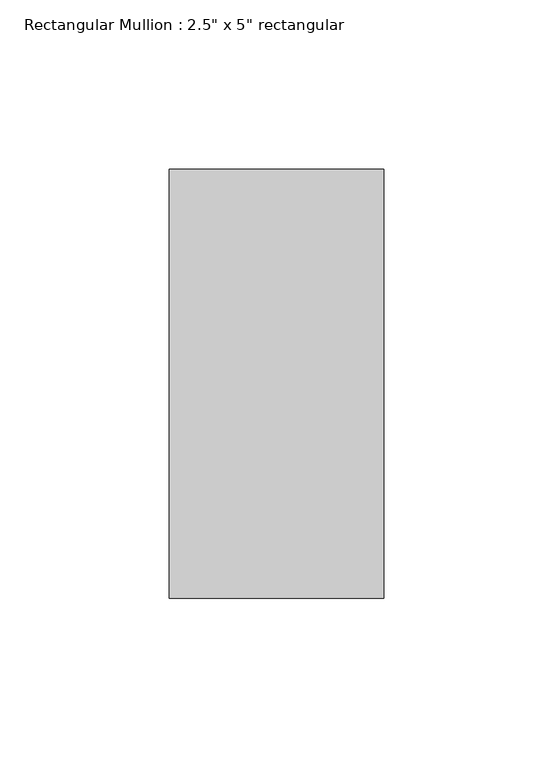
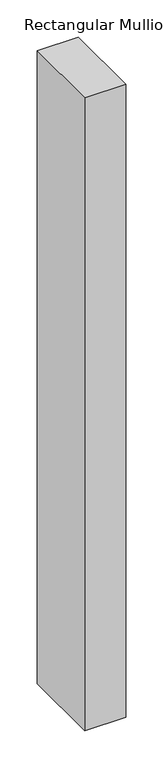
"""IFC4 building model written with IfcOpenShell, lengths in millimetres: member geometry."""

import ifcopenshell
import ifcopenshell.guid

model = None  # the IFC model being written
_history = None  # IfcOwnerHistory: only IFC2X3 demands one
_inside = {}  # id of a spatial element -> (the spatial element, [elements in it])
_under = {}  # id of a project, library or spatial element -> (it, [spatial elements below it])
_declared = {}  # id of a project -> (the project, [libraries it declares])
_typed = {}  # id of a type object -> (the type object, [elements of that type])
_made_of = {}  # id of a material, layer set ... -> (it, [elements and type objects made of it])


def new_model(schema):
    """Start an empty IFC model of exactly this schema.

    Asked for "IFC4X3", IfcOpenShell would pick the latest addendum, in which some entities
    have other attributes; the version numbers below select the first issue.
    IFC2X3 requires an IfcOwnerHistory on every rooted entity: one is made here for all.
    """
    global model, _history
    if schema == "IFC4X3":
        model = ifcopenshell.file(schema_version=(4, 3, 0, 0))
    else:
        model = ifcopenshell.file(schema=schema)
    _inside.clear()
    _under.clear()
    _declared.clear()
    _typed.clear()
    _made_of.clear()
    _history = None
    if model.schema == "IFC2X3":
        org = make("IfcOrganization", Name="unknown")
        user = make(
            "IfcPersonAndOrganization",
            ThePerson=make("IfcPerson", FamilyName="unknown"),
            TheOrganization=org,
        )
        app = make(
            "IfcApplication",
            ApplicationDeveloper=org,
            Version="unknown",
            ApplicationFullName="unknown",
            ApplicationIdentifier="unknown",
        )
        _history = make(
            "IfcOwnerHistory",
            OwningUser=user,
            OwningApplication=app,
            ChangeAction="ADDED",
            CreationDate=0,
        )
    return model


def make(cls, **values):
    """One entity of the class cls with the attributes given. An attribute that is None is left unset."""
    return model.create_entity(
        cls, **{name: value for name, value in values.items() if value is not None}
    )


def rooted(cls, **values):
    """An entity with a GlobalId (a new one), such as an element, a storey or a relation."""
    return make(cls, GlobalId=ifcopenshell.guid.new(), OwnerHistory=_history, **values)


def si_unit(unit_type, name, prefix=None):
    """IfcSIUnit, for example si_unit("LENGTHUNIT", "METRE", prefix="MILLI")."""
    return make("IfcSIUnit", UnitType=unit_type, Prefix=prefix, Name=name)


def assignment(units):
    """IfcUnitAssignment: the units of a project."""
    return None if units is None else make("IfcUnitAssignment", Units=units)


def point(xyz):
    """IfcCartesianPoint."""
    return None if xyz is None else make("IfcCartesianPoint", Coordinates=xyz)


def direction(xyz):
    """IfcDirection."""
    return None if xyz is None else make("IfcDirection", DirectionRatios=xyz)


def frame(location, z_axis=None, x_axis=None):
    """IfcAxis2Placement3D, a coordinate frame: its origin and axes. An axis left out is left unset."""
    return make(
        "IfcAxis2Placement3D",
        Location=point(location),
        Axis=direction(z_axis),
        RefDirection=direction(x_axis),
    )


def origin():
    """The frame at (0, 0, 0) with its axes left unset."""
    return frame((0.0, 0.0, 0.0))


def place(relative_to, where):
    """IfcLocalPlacement: puts the frame where relative to a parent placement (None: the world)."""
    return make(
        "IfcLocalPlacement", PlacementRelTo=relative_to, RelativePlacement=where
    )


def context(
    kind, dimensions, precision=None, world=None, true_north=None, identifier=None
):
    """IfcGeometricRepresentationContext, for example the 3D "Model" context."""
    return make(
        "IfcGeometricRepresentationContext",
        ContextIdentifier=identifier,
        ContextType=kind,
        CoordinateSpaceDimension=dimensions,
        Precision=precision,
        WorldCoordinateSystem=world,
        TrueNorth=true_north,
    )


def project(units=None, contexts=None):
    """IfcProject with its units and contexts."""
    return rooted(
        "IfcProject",
        Name="project",
        RepresentationContexts=contexts,
        UnitsInContext=assignment(units),
    )


def spatial(cls, under=None, at=None, **own):
    """A site, building, storey or space (cls), placed at a placement, below another one or the project."""
    s = rooted(cls, ObjectPlacement=at, **own)
    if under is not None:
        _under.setdefault(under.id(), (under, []))[1].append(s)
    return s


def polyline(points):
    """IfcPolyline through the points."""
    return make("IfcPolyline", Points=[point(p) for p in points])


def outline(outer, holes=None, kind="AREA"):
    """IfcArbitraryClosedProfileDef: a profile drawn as a closed curve; with holes, ...WithVoids."""
    if holes is None:
        return make("IfcArbitraryClosedProfileDef", ProfileType=kind, OuterCurve=outer)
    return make(
        "IfcArbitraryProfileDefWithVoids",
        ProfileType=kind,
        OuterCurve=outer,
        InnerCurves=holes,
    )


def extrude(swept, where, along, depth):
    """IfcExtrudedAreaSolid: the profile swept, set in the frame where, extruded along a direction by depth."""
    return make(
        "IfcExtrudedAreaSolid",
        SweptArea=swept,
        Position=where,
        ExtrudedDirection=direction(along),
        Depth=depth,
    )


def shape(context_of_items, identifier, shape_type, items):
    """IfcShapeRepresentation: the items that make up one representation, for example the "Body"."""
    return make(
        "IfcShapeRepresentation",
        ContextOfItems=context_of_items,
        RepresentationIdentifier=identifier,
        RepresentationType=shape_type,
        Items=items,
    )


def source(mapping_origin, context_of_items, identifier, shape_type, items):
    """IfcRepresentationMap: a shape defined once, which mapped items show again and again."""
    return make(
        "IfcRepresentationMap",
        MappingOrigin=mapping_origin,
        MappedRepresentation=shape(context_of_items, identifier, shape_type, items),
    )


def transform(
    local_origin,
    x_axis=None,
    y_axis=None,
    z_axis=None,
    scale=None,
    scale2=None,
    scale3=None,
    uniform=True,
):
    """IfcCartesianTransformationOperator3D, or its non-uniform kind. x_axis, y_axis, z_axis: its Axis1, 2, 3."""
    if uniform:
        return make(
            "IfcCartesianTransformationOperator3D",
            Axis1=direction(x_axis),
            Axis2=direction(y_axis),
            LocalOrigin=point(local_origin),
            Scale=scale,
            Axis3=direction(z_axis),
        )
    return make(
        "IfcCartesianTransformationOperator3DnonUniform",
        Axis1=direction(x_axis),
        Axis2=direction(y_axis),
        LocalOrigin=point(local_origin),
        Scale=scale,
        Axis3=direction(z_axis),
        Scale2=scale2,
        Scale3=scale3,
    )


def mapped(mapping_source, mapping_target):
    """IfcMappedItem: shows the shape of a source again, moved by a transform."""
    return make(
        "IfcMappedItem", MappingSource=mapping_source, MappingTarget=mapping_target
    )


def made_of(thing, what):
    """Note that an element or type object is made of a material, layer set ...; save() writes the relation."""
    if what is not None:
        _made_of.setdefault(what.id(), (what, []))[1].append(thing)
    return thing


def element(
    cls,
    number,
    at=None,
    inside=None,
    cuts=None,
    type_object=None,
    material=None,
    context=None,
    identifier="Body",
    shape_type=None,
    held_by="IfcProductDefinitionShape",
    body=None,
    shapes=None,
    **own,
):
    """One element of the class cls, such as IfcWall. Its Tag is "e" and its number.

    at: its placement. inside: the storey or other place that contains it. cuts: it is an
    opening in that element (IfcRelVoidsElement). A single representation is given by context,
    identifier, shape_type and body (its items); several are given by shapes. held_by: the class
    of the entity that holds the representations. save() writes the other relations.
    """
    e = rooted(cls, Tag="e%d" % number, ObjectPlacement=at, **own)
    if body is not None:
        shapes = [shape(context, identifier, shape_type, body)]
    if shapes is not None:
        e.Representation = make(held_by, Representations=shapes)
    if inside is not None:
        _inside.setdefault(inside.id(), (inside, []))[1].append(e)
    if cuts is not None:
        rooted(
            "IfcRelVoidsElement", RelatingBuildingElement=cuts, RelatedOpeningElement=e
        )
    if type_object is not None:
        _typed.setdefault(type_object.id(), (type_object, []))[1].append(e)
    return made_of(e, material)


def aggregate(whole, parts):
    """IfcRelAggregates: a whole, such as a stair, and the parts it consists of."""
    return rooted("IfcRelAggregates", RelatingObject=whole, RelatedObjects=parts)


def save(model, path):
    """Write the relations noted so far, then the file.

    IfcRelAggregates (storeys below a building ...), IfcRelContainedInSpatialStructure (elements
    in a storey), IfcRelDefinesByType, IfcRelAssociatesMaterial and IfcRelDeclares: one each for
    every whole, place, type object, material and project.
    """
    for whole, parts in _under.values():
        aggregate(whole, parts)
    for where, things in _inside.values():
        rooted(
            "IfcRelContainedInSpatialStructure",
            RelatedElements=things,
            RelatingStructure=where,
        )
    for kind, things in _typed.values():
        rooted("IfcRelDefinesByType", RelatedObjects=things, RelatingType=kind)
    for what, things in _made_of.values():
        rooted("IfcRelAssociatesMaterial", RelatedObjects=things, RelatingMaterial=what)
    for by, libraries in _declared.values():
        rooted("IfcRelDeclares", RelatingContext=by, RelatedDefinitions=libraries)
    model.write(path)


def member_c8ecf2e3(model_context):
    return source(origin(), model_context, "Body", "SweptSolid", [
        extrude(outline(polyline([(0.0, 63.5), (0.0, -63.5), (-63.5, -63.5), (-63.5, 63.5), (0.0, 63.5)])), frame((0.0, 0.0, -1036.8642859), z_axis=(0.0, 0.0, 1.0), x_axis=(1.0, 0.0, 0.0)), (0.0, 0.0, 1.0), 1036.8642859),
    ])


if __name__ == "__main__":
    model = new_model("IFC4")
    model_context = context("Model", 3, world=origin())
    ifc_project = project(units=[si_unit("LENGTHUNIT", "METRE", prefix="MILLI")], contexts=[model_context])
    site = spatial("IfcSite", under=ifc_project)
    building = spatial("IfcBuilding", under=site)
    placement = place(None, origin())
    member_shape = member_c8ecf2e3(model_context)
    element("IfcMember", 1, ObjectType="Rectangular Mullion : 2.5\" x 5\" rectangular", at=placement, inside=building, context=model_context, shape_type="MappedRepresentation", body=[
        mapped(member_shape, transform((0.0, 0.0, 0.0), x_axis=(1.0, 0.0, 0.0), y_axis=(0.0, 1.0, 0.0), z_axis=(0.0, 0.0, 1.0))),
    ])
    save(model, "model.ifc")
